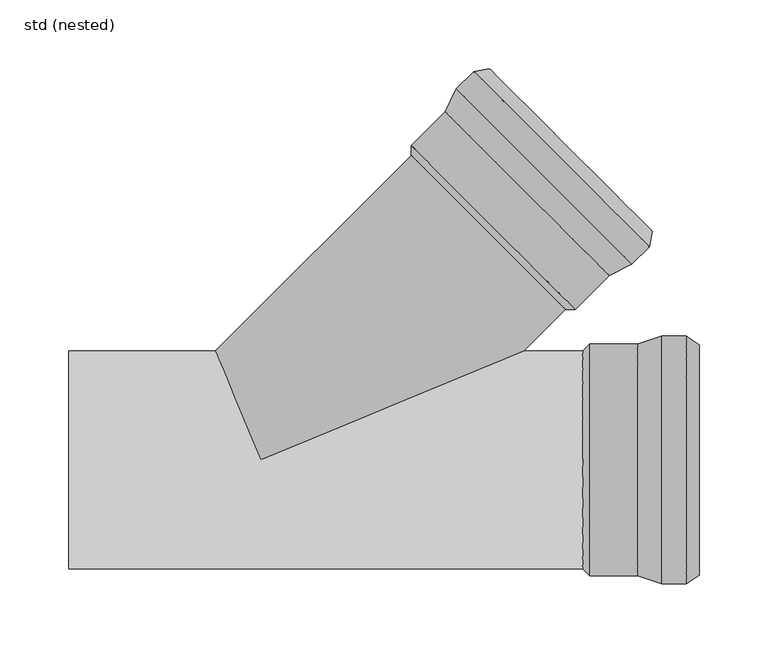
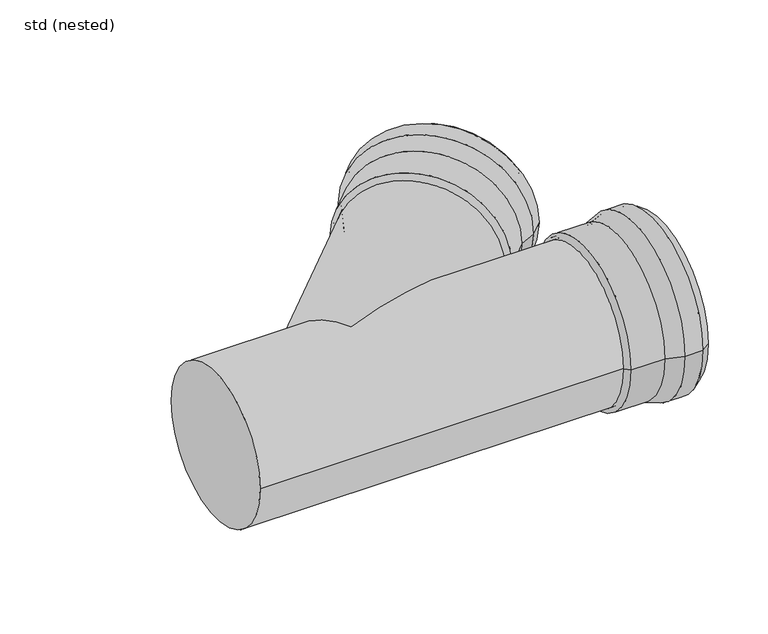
"""IFC4 building model written with IfcOpenShell, lengths in millimetres: pipe fitting geometry, ZZZ_do not use_PIF_ST_UN_GM-X single branch_ACO : std (nested)."""

import ifcopenshell
import ifcopenshell.guid

model = None  # the IFC model being written
_history = None  # IfcOwnerHistory: only IFC2X3 demands one
_inside = {}  # id of a spatial element -> (the spatial element, [elements in it])
_under = {}  # id of a project, library or spatial element -> (it, [spatial elements below it])
_declared = {}  # id of a project -> (the project, [libraries it declares])
_typed = {}  # id of a type object -> (the type object, [elements of that type])
_made_of = {}  # id of a material, layer set ... -> (it, [elements and type objects made of it])


def new_model(schema):
    """Start an empty IFC model of exactly this schema.

    Asked for "IFC4X3", IfcOpenShell would pick the latest addendum, in which some entities
    have other attributes; the version numbers below select the first issue.
    IFC2X3 requires an IfcOwnerHistory on every rooted entity: one is made here for all.
    """
    global model, _history
    if schema == "IFC4X3":
        model = ifcopenshell.file(schema_version=(4, 3, 0, 0))
    else:
        model = ifcopenshell.file(schema=schema)
    _inside.clear()
    _under.clear()
    _declared.clear()
    _typed.clear()
    _made_of.clear()
    _history = None
    if model.schema == "IFC2X3":
        org = make("IfcOrganization", Name="unknown")
        user = make(
            "IfcPersonAndOrganization",
            ThePerson=make("IfcPerson", FamilyName="unknown"),
            TheOrganization=org,
        )
        app = make(
            "IfcApplication",
            ApplicationDeveloper=org,
            Version="unknown",
            ApplicationFullName="unknown",
            ApplicationIdentifier="unknown",
        )
        _history = make(
            "IfcOwnerHistory",
            OwningUser=user,
            OwningApplication=app,
            ChangeAction="ADDED",
            CreationDate=0,
        )
    return model


def make(cls, **values):
    """One entity of the class cls with the attributes given. An attribute that is None is left unset."""
    return model.create_entity(
        cls, **{name: value for name, value in values.items() if value is not None}
    )


def rooted(cls, **values):
    """An entity with a GlobalId (a new one), such as an element, a storey or a relation."""
    return make(cls, GlobalId=ifcopenshell.guid.new(), OwnerHistory=_history, **values)


def si_unit(unit_type, name, prefix=None):
    """IfcSIUnit, for example si_unit("LENGTHUNIT", "METRE", prefix="MILLI")."""
    return make("IfcSIUnit", UnitType=unit_type, Prefix=prefix, Name=name)


def assignment(units):
    """IfcUnitAssignment: the units of a project."""
    return None if units is None else make("IfcUnitAssignment", Units=units)


def point(xyz):
    """IfcCartesianPoint."""
    return None if xyz is None else make("IfcCartesianPoint", Coordinates=xyz)


def direction(xyz):
    """IfcDirection."""
    return None if xyz is None else make("IfcDirection", DirectionRatios=xyz)


def frame(location, z_axis=None, x_axis=None):
    """IfcAxis2Placement3D, a coordinate frame: its origin and axes. An axis left out is left unset."""
    return make(
        "IfcAxis2Placement3D",
        Location=point(location),
        Axis=direction(z_axis),
        RefDirection=direction(x_axis),
    )


def origin():
    """The frame at (0, 0, 0) with its axes left unset."""
    return frame((0.0, 0.0, 0.0))


def place(relative_to, where):
    """IfcLocalPlacement: puts the frame where relative to a parent placement (None: the world)."""
    return make(
        "IfcLocalPlacement", PlacementRelTo=relative_to, RelativePlacement=where
    )


def context(
    kind, dimensions, precision=None, world=None, true_north=None, identifier=None
):
    """IfcGeometricRepresentationContext, for example the 3D "Model" context."""
    return make(
        "IfcGeometricRepresentationContext",
        ContextIdentifier=identifier,
        ContextType=kind,
        CoordinateSpaceDimension=dimensions,
        Precision=precision,
        WorldCoordinateSystem=world,
        TrueNorth=true_north,
    )


def project(units=None, contexts=None):
    """IfcProject with its units and contexts."""
    return rooted(
        "IfcProject",
        Name="project",
        RepresentationContexts=contexts,
        UnitsInContext=assignment(units),
    )


def spatial(cls, under=None, at=None, **own):
    """A site, building, storey or space (cls), placed at a placement, below another one or the project."""
    s = rooted(cls, ObjectPlacement=at, **own)
    if under is not None:
        _under.setdefault(under.id(), (under, []))[1].append(s)
    return s


def polyline(points):
    """IfcPolyline through the points."""
    return make("IfcPolyline", Points=[point(p) for p in points])


def circle_curve(where, radius):
    """IfcCircle in the frame where."""
    return make("IfcCircle", Position=where, Radius=radius)


def ellipse_curve(where, semi_axis1, semi_axis2):
    """IfcEllipse in the frame where."""
    return make(
        "IfcEllipse", Position=where, SemiAxis1=semi_axis1, SemiAxis2=semi_axis2
    )


def shape(context_of_items, identifier, shape_type, items):
    """IfcShapeRepresentation: the items that make up one representation, for example the "Body"."""
    return make(
        "IfcShapeRepresentation",
        ContextOfItems=context_of_items,
        RepresentationIdentifier=identifier,
        RepresentationType=shape_type,
        Items=items,
    )


def source(mapping_origin, context_of_items, identifier, shape_type, items):
    """IfcRepresentationMap: a shape defined once, which mapped items show again and again."""
    return make(
        "IfcRepresentationMap",
        MappingOrigin=mapping_origin,
        MappedRepresentation=shape(context_of_items, identifier, shape_type, items),
    )


def transform(
    local_origin,
    x_axis=None,
    y_axis=None,
    z_axis=None,
    scale=None,
    scale2=None,
    scale3=None,
    uniform=True,
):
    """IfcCartesianTransformationOperator3D, or its non-uniform kind. x_axis, y_axis, z_axis: its Axis1, 2, 3."""
    if uniform:
        return make(
            "IfcCartesianTransformationOperator3D",
            Axis1=direction(x_axis),
            Axis2=direction(y_axis),
            LocalOrigin=point(local_origin),
            Scale=scale,
            Axis3=direction(z_axis),
        )
    return make(
        "IfcCartesianTransformationOperator3DnonUniform",
        Axis1=direction(x_axis),
        Axis2=direction(y_axis),
        LocalOrigin=point(local_origin),
        Scale=scale,
        Axis3=direction(z_axis),
        Scale2=scale2,
        Scale3=scale3,
    )


def mapped(mapping_source, mapping_target):
    """IfcMappedItem: shows the shape of a source again, moved by a transform."""
    return make(
        "IfcMappedItem", MappingSource=mapping_source, MappingTarget=mapping_target
    )


def made_of(thing, what):
    """Note that an element or type object is made of a material, layer set ...; save() writes the relation."""
    if what is not None:
        _made_of.setdefault(what.id(), (what, []))[1].append(thing)
    return thing


def element(
    cls,
    number,
    at=None,
    inside=None,
    cuts=None,
    type_object=None,
    material=None,
    context=None,
    identifier="Body",
    shape_type=None,
    held_by="IfcProductDefinitionShape",
    body=None,
    shapes=None,
    **own,
):
    """One element of the class cls, such as IfcWall. Its Tag is "e" and its number.

    at: its placement. inside: the storey or other place that contains it. cuts: it is an
    opening in that element (IfcRelVoidsElement). A single representation is given by context,
    identifier, shape_type and body (its items); several are given by shapes. held_by: the class
    of the entity that holds the representations. save() writes the other relations.
    """
    e = rooted(cls, Tag="e%d" % number, ObjectPlacement=at, **own)
    if body is not None:
        shapes = [shape(context, identifier, shape_type, body)]
    if shapes is not None:
        e.Representation = make(held_by, Representations=shapes)
    if inside is not None:
        _inside.setdefault(inside.id(), (inside, []))[1].append(e)
    if cuts is not None:
        rooted(
            "IfcRelVoidsElement", RelatingBuildingElement=cuts, RelatedOpeningElement=e
        )
    if type_object is not None:
        _typed.setdefault(type_object.id(), (type_object, []))[1].append(e)
    return made_of(e, material)


def aggregate(whole, parts):
    """IfcRelAggregates: a whole, such as a stair, and the parts it consists of."""
    return rooted("IfcRelAggregates", RelatingObject=whole, RelatedObjects=parts)


def save(model, path):
    """Write the relations noted so far, then the file.

    IfcRelAggregates (storeys below a building ...), IfcRelContainedInSpatialStructure (elements
    in a storey), IfcRelDefinesByType, IfcRelAssociatesMaterial and IfcRelDeclares: one each for
    every whole, place, type object, material and project.
    """
    for whole, parts in _under.values():
        aggregate(whole, parts)
    for where, things in _inside.values():
        rooted(
            "IfcRelContainedInSpatialStructure",
            RelatedElements=things,
            RelatingStructure=where,
        )
    for kind, things in _typed.values():
        rooted("IfcRelDefinesByType", RelatedObjects=things, RelatingType=kind)
    for what, things in _made_of.values():
        rooted("IfcRelAssociatesMaterial", RelatedObjects=things, RelatingMaterial=what)
    for by, libraries in _declared.values():
        rooted("IfcRelDeclares", RelatingContext=by, RelatedDefinitions=libraries)
    model.write(path)


def plane_surface(at):
    """IfcPlane: the flat surface through the origin of the frame at, square to its z axis."""
    return make("IfcPlane", Position=at)


def cylinder_surface(at, radius):
    """IfcCylindricalSurface: all points at the distance radius from the z axis of the frame at."""
    return make("IfcCylindricalSurface", Position=at, Radius=radius)


def revolved_surface(curve, axis_point, axis_direction):
    """IfcSurfaceOfRevolution: the curve turned about the line through axis_point along axis_direction."""
    return make(
        "IfcSurfaceOfRevolution",
        SweptCurve=make("IfcArbitraryOpenProfileDef", ProfileType="CURVE", Curve=curve),
        AxisPosition=make("IfcAxis1Placement", Location=point(axis_point), Axis=direction(axis_direction)),
    )


def advanced_brep(points, edges, surfaces, faces):
    """IfcAdvancedBrep: a solid bounded by faces that lie on surfaces and meet in shared edges.

    An edge is (start, end): straight between two places in points (the first is 0);
    or (start, end, curve); or (start, end, curve, False) where it runs against its curve.
    A face is (place in surfaces, loops), or (place, loops, False) where it looks against
    its surface's normal. A loop lists edges by number (the first is 1), with a minus sign
    where the edge is run from its end to its start. The first loop is the outer one.
    """
    corners = [point(p) for p in points]
    vertices = [make("IfcVertexPoint", VertexGeometry=c) for c in corners]
    made = []
    for start, end, *more in edges:
        made.append(
            make(
                "IfcEdgeCurve",
                EdgeStart=vertices[start],
                EdgeEnd=vertices[end],
                EdgeGeometry=more[0] if more else make("IfcPolyline", Points=[corners[start], corners[end]]),
                SameSense=more[1] if len(more) > 1 else True,
            )
        )
    hull = []
    for where, loops, *sense in faces:
        bounds = []
        for j, loop in enumerate(loops):
            ring = [make("IfcOrientedEdge", EdgeElement=made[abs(k) - 1], Orientation=k > 0) for k in loop]
            bounds.append(
                make(
                    "IfcFaceOuterBound" if j == 0 else "IfcFaceBound",
                    Bound=make("IfcEdgeLoop", EdgeList=ring),
                    Orientation=True,
                )
            )
        hull.append(make("IfcAdvancedFace", Bounds=bounds, FaceSurface=surfaces[where], SameSense=sense[0] if sense else True))
    return make("IfcAdvancedBrep", Outer=make("IfcClosedShell", CfsFaces=hull))


def std_nested_64a60f05(model_context):
    return source(origin(), model_context, "Body", "AdvancedBrep", [
        advanced_brep(
        [(292.5, -90.5, 0.0), (292.5, 90.5, 0.0), (310.5, 90.5, 0.0), (310.5, -90.5, 0.0), (275.0, -84.5, 0.0), (275.0, 84.5, 0.0), (320.0, 84.0, 0.0), (320.0, -84.0, 0.0), (240.0, -84.5, 0.0), (240.0, 84.5, 0.0), (235.0, -79.5, 0.0), (235.0, 79.5, 0.0), (240.0, -79.5, 0.0), (240.0, 79.5, 0.0), (275.4166667, -82.0, 0.0), (275.4166667, 82.0, 0.0), (240.0, 82.0, 0.0), (240.0, -82.0, 0.0), (292.9166667, -88.0, 0.0), (292.9166667, 88.0, 0.0), (309.7265906, -88.0, 0.0), (309.7265906, 88.0, 0.0), (318.5882902, -81.9367318, 0.0), (318.5882902, 81.9367318, 0.0)],
        [
            (0, 1, circle_curve(frame((292.5, 0.0, 0.0), z_axis=(1.0, 0.0, 0.0), x_axis=(0.0, 1.0, 0.0)), 90.5)),
            (1, 2),
            (2, 3, circle_curve(frame((310.5, 0.0, 0.0), z_axis=(-1.0, 0.0, 0.0), x_axis=(0.0, 1.0, 0.0)), 90.5)),
            (3, 0),
            (1, 0, circle_curve(frame((292.5, 0.0, 0.0), z_axis=(1.0, 0.0, 0.0), x_axis=(0.0, 1.0, 0.0)), 90.5)),
            (3, 2, circle_curve(frame((310.5, 0.0, 0.0), z_axis=(-1.0, 0.0, 0.0), x_axis=(0.0, 1.0, 0.0)), 90.5)),
            (4, 5, circle_curve(frame((275.0, 0.0, 0.0), z_axis=(1.0, 0.0, 0.0), x_axis=(0.0, 1.0, 0.0)), 84.5)),
            (5, 1),
            (0, 4),
            (5, 4, circle_curve(frame((275.0, 0.0, 0.0), z_axis=(1.0, 0.0, 0.0), x_axis=(0.0, 1.0, 0.0)), 84.5)),
            (2, 6),
            (6, 7, circle_curve(frame((320.0, 0.0, 0.0), z_axis=(-1.0, 0.0, 0.0), x_axis=(0.0, 1.0, 0.0)), 84.0)),
            (7, 3),
            (7, 6, circle_curve(frame((320.0, 0.0, 0.0), z_axis=(-1.0, 0.0, 0.0), x_axis=(0.0, 1.0, 0.0)), 84.0)),
            (8, 9, circle_curve(frame((240.0, 0.0, 0.0), z_axis=(1.0, 0.0, 0.0), x_axis=(0.0, 1.0, 0.0)), 84.5)),
            (9, 5),
            (4, 8),
            (9, 8, circle_curve(frame((240.0, 0.0, 0.0), z_axis=(1.0, 0.0, 0.0), x_axis=(0.0, 1.0, 0.0)), 84.5)),
            (10, 11, circle_curve(frame((235.0, 0.0, 0.0), z_axis=(1.0, 0.0, 0.0), x_axis=(0.0, 1.0, 0.0)), 79.5)),
            (11, 9),
            (8, 10),
            (11, 10, circle_curve(frame((235.0, 0.0, 0.0), z_axis=(1.0, 0.0, 0.0), x_axis=(0.0, 1.0, 0.0)), 79.5)),
            (12, 13, circle_curve(frame((240.0, 0.0, 0.0), z_axis=(1.0, 0.0, 0.0), x_axis=(0.0, 1.0, 0.0)), 79.5)),
            (13, 11),
            (10, 12),
            (13, 12, circle_curve(frame((240.0, 0.0, 0.0), z_axis=(1.0, 0.0, 0.0), x_axis=(0.0, 1.0, 0.0)), 79.5)),
            (14, 15, circle_curve(frame((275.4166667, 0.0, 0.0), z_axis=(1.0, 0.0, 0.0), x_axis=(0.0, 1.0, 0.0)), 82.0)),
            (15, 16),
            (16, 17, circle_curve(frame((240.0, 0.0, 0.0), z_axis=(-1.0, 0.0, 0.0), x_axis=(0.0, 1.0, 0.0)), 82.0)),
            (17, 14),
            (15, 14, circle_curve(frame((275.4166667, 0.0, 0.0), z_axis=(1.0, 0.0, 0.0), x_axis=(0.0, 1.0, 0.0)), 82.0)),
            (17, 16, circle_curve(frame((240.0, 0.0, 0.0), z_axis=(-1.0, 0.0, 0.0), x_axis=(0.0, 1.0, 0.0)), 82.0)),
            (18, 19, circle_curve(frame((292.9166667, 0.0, 0.0), z_axis=(1.0, 0.0, 0.0), x_axis=(0.0, 1.0, 0.0)), 88.0)),
            (19, 15),
            (14, 18),
            (19, 18, circle_curve(frame((292.9166667, 0.0, 0.0), z_axis=(1.0, 0.0, 0.0), x_axis=(0.0, 1.0, 0.0)), 88.0)),
            (20, 21, circle_curve(frame((309.7265906, 0.0, 0.0), z_axis=(1.0, 0.0, 0.0), x_axis=(0.0, 1.0, 0.0)), 88.0)),
            (21, 19),
            (18, 20),
            (21, 20, circle_curve(frame((309.7265906, 0.0, 0.0), z_axis=(1.0, 0.0, 0.0), x_axis=(0.0, 1.0, 0.0)), 88.0)),
            (22, 23, circle_curve(frame((318.5882902, 0.0, 0.0), z_axis=(1.0, 0.0, 0.0), x_axis=(0.0, 1.0, 0.0)), 81.9367318)),
            (23, 21),
            (20, 22),
            (23, 22, circle_curve(frame((318.5882902, 0.0, 0.0), z_axis=(1.0, 0.0, 0.0), x_axis=(0.0, 1.0, 0.0)), 81.9367318)),
            (6, 23),
            (22, 7),
            (16, 13),
            (12, 17),
        ],
        [
            cylinder_surface(frame((316.6444117, 0.0, 0.0), z_axis=(-1.0, 0.0, 0.0), x_axis=(0.0, 1.0, 0.0)), 90.5),
            revolved_surface(polyline([(292.5, 90.5, 0.0), (275.0, 84.5, 0.0)]), (316.6444117, 0.0, 0.0), (-1.0, 0.0, 0.0)),
            revolved_surface(polyline([(320.0, 84.0, 0.0), (310.5, 90.5, 0.0)]), (316.6444117, 0.0, 0.0), (-1.0, 0.0, 0.0)),
            cylinder_surface(frame((316.6444117, 0.0, 0.0), z_axis=(-1.0, 0.0, 0.0), x_axis=(0.0, 1.0, 0.0)), 84.5),
            revolved_surface(polyline([(240.0, 84.5, 0.0), (235.0, 79.5, 0.0)]), (316.6444117, 0.0, 0.0), (-1.0, 0.0, 0.0)),
            revolved_surface(polyline([(235.0, 79.5, 0.0), (240.0, 79.5, 0.0)]), (316.6444117, 0.0, 0.0), (-1.0, 0.0, 0.0)),
            revolved_surface(polyline([(240.0, 82.0, 0.0), (275.4166667, 82.0, 0.0)]), (316.6444117, 0.0, 0.0), (-1.0, 0.0, 0.0)),
            revolved_surface(polyline([(275.4166667, 82.0, 0.0), (292.9166667, 88.0, 0.0)]), (316.6444117, 0.0, 0.0), (-1.0, 0.0, 0.0)),
            revolved_surface(polyline([(292.9166667, 88.0, 0.0), (309.7265906, 88.0, 0.0)]), (316.6444117, 0.0, 0.0), (-1.0, 0.0, 0.0)),
            revolved_surface(polyline([(309.7265906, 88.0, 0.0), (318.5882902, 81.9367318, 0.0)]), (316.6444117, 0.0, 0.0), (-1.0, 0.0, 0.0)),
            revolved_surface(polyline([(318.5882902, 81.9367318, 0.0), (320.0, 84.0, 0.0)]), (316.6444117, 0.0, 0.0), (-1.0, 0.0, 0.0)),
            plane_surface(frame((240.0, 0.0, 0.0), z_axis=(1.0, 0.0, 0.0), x_axis=(0.0, 1.0, 0.0))),
        ],
        [
            (0, [[1, 2, 3, 4]]),
            (0, [[5, -4, 6, -2]]),
            (1, [[7, 8, -1, 9]]),
            (1, [[10, -9, -5, -8]]),
            (2, [[-3, 11, 12, 13]]),
            (2, [[-6, -13, 14, -11]]),
            (3, [[15, 16, -7, 17]]),
            (3, [[18, -17, -10, -16]]),
            (4, [[19, 20, -15, 21]]),
            (4, [[22, -21, -18, -20]]),
            (5, [[23, 24, -19, 25]]),
            (5, [[26, -25, -22, -24]]),
            (6, [[27, 28, 29, 30]]),
            (6, [[31, -30, 32, -28]]),
            (7, [[33, 34, -27, 35]]),
            (7, [[36, -35, -31, -34]]),
            (8, [[37, 38, -33, 39]]),
            (8, [[40, -39, -36, -38]]),
            (9, [[41, 42, -37, 43]]),
            (9, [[44, -43, -40, -42]]),
            (10, [[-12, 45, -41, 46]]),
            (10, [[-14, -46, -44, -45]]),
            (11, [[-29, 47, -23, 48]]),
            (11, [[-32, -48, -26, -47]]),
        ],
    ),
        advanced_brep(
        [(270.8218972, 142.8355698, 0.0), (142.8355698, 270.8218972, 0.0), (155.5634919, 283.5498193, 0.0), (283.5498193, 155.5634919, 0.0), (254.2048878, 134.7038418, 0.0), (134.7038418, 254.2048878, 0.0), (166.8772004, 285.6711396, 0.0), (285.6711396, 166.8772004, 0.0), (229.4561505, 109.9551045, 0.0), (109.9551045, 229.4561505, 0.0), (222.3850827, 109.9551045, 0.0), (109.9551045, 222.3850827, 0.0), (225.9206166, 113.4906384, 0.0), (113.4906384, 225.9206166, 0.0), (252.7317487, 136.7662366, 0.0), (136.7662366, 252.7317487, 0.0), (111.7228714, 227.6883835, 0.0), (227.6883835, 111.7228714, 0.0), (269.3487581, 144.8979646, 0.0), (144.8979646, 269.3487581, 0.0), (281.2351693, 156.7843758, 0.0), (156.7843758, 281.2351693, 0.0), (283.2139591, 167.3379217, 0.0), (167.3379217, 283.2139591, 0.0)],
        [
            (0, 1, circle_curve(frame((206.8287335, 206.8287335, 0.0), z_axis=(0.7071067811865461, 0.7071067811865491, 0.0), x_axis=(-0.7071067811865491, 0.7071067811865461, 0.0)), 90.5)),
            (1, 2),
            (2, 3, circle_curve(frame((219.5566556, 219.5566556, 0.0), z_axis=(-0.7071067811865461, -0.7071067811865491, 0.0), x_axis=(-0.7071067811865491, 0.7071067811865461, 0.0)), 90.5)),
            (3, 0),
            (1, 0, circle_curve(frame((206.8287335, 206.8287335, 0.0), z_axis=(0.7071067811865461, 0.7071067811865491, 0.0), x_axis=(-0.7071067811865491, 0.7071067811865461, 0.0)), 90.5)),
            (3, 2, circle_curve(frame((219.5566556, 219.5566556, 0.0), z_axis=(-0.7071067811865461, -0.7071067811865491, 0.0), x_axis=(-0.7071067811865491, 0.7071067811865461, 0.0)), 90.5)),
            (4, 5, circle_curve(frame((194.4543648, 194.4543648, 0.0), z_axis=(0.7071067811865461, 0.7071067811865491, 0.0), x_axis=(-0.7071067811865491, 0.7071067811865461, 0.0)), 84.5)),
            (5, 1),
            (0, 4),
            (5, 4, circle_curve(frame((194.4543648, 194.4543648, 0.0), z_axis=(0.7071067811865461, 0.7071067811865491, 0.0), x_axis=(-0.7071067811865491, 0.7071067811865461, 0.0)), 84.5)),
            (2, 6),
            (6, 7, circle_curve(frame((226.27417, 226.27417, 0.0), z_axis=(-0.7071067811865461, -0.7071067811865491, 0.0), x_axis=(-0.7071067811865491, 0.7071067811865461, 0.0)), 84.0)),
            (7, 3),
            (7, 6, circle_curve(frame((226.27417, 226.27417, 0.0), z_axis=(-0.7071067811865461, -0.7071067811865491, 0.0), x_axis=(-0.7071067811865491, 0.7071067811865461, 0.0)), 84.0)),
            (8, 9, circle_curve(frame((169.7056275, 169.7056275, 0.0), z_axis=(0.7071067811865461, 0.7071067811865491, 0.0), x_axis=(-0.7071067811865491, 0.7071067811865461, 0.0)), 84.5)),
            (9, 5),
            (4, 8),
            (9, 8, circle_curve(frame((169.7056275, 169.7056275, 0.0), z_axis=(0.7071067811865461, 0.7071067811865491, 0.0), x_axis=(-0.7071067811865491, 0.7071067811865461, 0.0)), 84.5)),
            (10, 11, circle_curve(frame((166.1700936, 166.1700936, 0.0), z_axis=(0.7071067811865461, 0.7071067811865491, 0.0), x_axis=(-0.7071067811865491, 0.7071067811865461, 0.0)), 79.5)),
            (11, 9),
            (8, 10),
            (11, 10, circle_curve(frame((166.1700936, 166.1700936, 0.0), z_axis=(0.7071067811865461, 0.7071067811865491, 0.0), x_axis=(-0.7071067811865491, 0.7071067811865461, 0.0)), 79.5)),
            (12, 13, circle_curve(frame((169.7056275, 169.7056275, 0.0), z_axis=(0.7071067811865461, 0.7071067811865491, 0.0), x_axis=(-0.7071067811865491, 0.7071067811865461, 0.0)), 79.5)),
            (13, 11),
            (10, 12),
            (13, 12, circle_curve(frame((169.7056275, 169.7056275, 0.0), z_axis=(0.7071067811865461, 0.7071067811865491, 0.0), x_axis=(-0.7071067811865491, 0.7071067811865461, 0.0)), 79.5)),
            (14, 15, circle_curve(frame((194.7489927, 194.7489927, 0.0), z_axis=(0.7071067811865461, 0.7071067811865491, 0.0), x_axis=(-0.7071067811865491, 0.7071067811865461, 0.0)), 82.0)),
            (15, 16),
            (16, 17, circle_curve(frame((169.7056275, 169.7056275, 0.0), z_axis=(-0.7071067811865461, -0.7071067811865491, 0.0), x_axis=(-0.7071067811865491, 0.7071067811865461, 0.0)), 82.0)),
            (17, 14),
            (15, 14, circle_curve(frame((194.7489927, 194.7489927, 0.0), z_axis=(0.7071067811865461, 0.7071067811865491, 0.0), x_axis=(-0.7071067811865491, 0.7071067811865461, 0.0)), 82.0)),
            (17, 16, circle_curve(frame((169.7056275, 169.7056275, 0.0), z_axis=(-0.7071067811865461, -0.7071067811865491, 0.0), x_axis=(-0.7071067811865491, 0.7071067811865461, 0.0)), 82.0)),
            (18, 19, circle_curve(frame((207.1233613, 207.1233613, 0.0), z_axis=(0.7071067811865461, 0.7071067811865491, 0.0), x_axis=(-0.7071067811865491, 0.7071067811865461, 0.0)), 88.0)),
            (19, 15),
            (14, 18),
            (19, 18, circle_curve(frame((207.1233613, 207.1233613, 0.0), z_axis=(0.7071067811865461, 0.7071067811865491, 0.0), x_axis=(-0.7071067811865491, 0.7071067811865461, 0.0)), 88.0)),
            (20, 21, circle_curve(frame((219.0097725, 219.0097725, 0.0), z_axis=(0.7071067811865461, 0.7071067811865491, 0.0), x_axis=(-0.7071067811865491, 0.7071067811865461, 0.0)), 88.0)),
            (21, 19),
            (18, 20),
            (21, 20, circle_curve(frame((219.0097725, 219.0097725, 0.0), z_axis=(0.7071067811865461, 0.7071067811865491, 0.0), x_axis=(-0.7071067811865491, 0.7071067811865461, 0.0)), 88.0)),
            (22, 23, circle_curve(frame((225.2759404, 225.2759404, 0.0), z_axis=(0.7071067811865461, 0.7071067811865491, 0.0), x_axis=(-0.7071067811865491, 0.7071067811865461, 0.0)), 81.9367318)),
            (23, 21),
            (20, 22),
            (23, 22, circle_curve(frame((225.2759404, 225.2759404, 0.0), z_axis=(0.7071067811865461, 0.7071067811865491, 0.0), x_axis=(-0.7071067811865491, 0.7071067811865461, 0.0)), 81.9367318)),
            (6, 23),
            (22, 7),
            (16, 13),
            (12, 17),
        ],
        [
            cylinder_surface(frame((223.9014107, 223.9014107, 0.0), z_axis=(-0.7071067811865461, -0.7071067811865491, 0.0), x_axis=(-0.7071067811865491, 0.7071067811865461, 0.0)), 90.5),
            revolved_surface(polyline([(142.8355698, 270.8218972, 0.0), (134.7038418, 254.2048878, 0.0)]), (223.9014107, 223.9014107, 0.0), (-0.7071067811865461, -0.7071067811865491, 0.0)),
            revolved_surface(polyline([(166.8772004, 285.6711396, 0.0), (155.5634919, 283.5498193, 0.0)]), (223.9014107, 223.9014107, 0.0), (-0.7071067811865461, -0.7071067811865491, 0.0)),
            cylinder_surface(frame((223.9014107, 223.9014107, 0.0), z_axis=(-0.7071067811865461, -0.7071067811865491, 0.0), x_axis=(-0.7071067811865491, 0.7071067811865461, 0.0)), 84.5),
            revolved_surface(polyline([(109.9551045, 229.4561505, 0.0), (109.9551045, 222.3850827, 0.0)]), (223.9014107, 223.9014107, 0.0), (-0.7071067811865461, -0.7071067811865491, 0.0)),
            revolved_surface(polyline([(109.9551044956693, 222.3850827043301, 0.0), (113.49063839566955, 225.92061660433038, 0.0)]), (223.9014107, 223.9014107, 0.0), (-0.7071067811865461, -0.7071067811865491, 0.0)),
            revolved_surface(polyline([(111.72287139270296, 227.68838350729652, 0.0), (136.76623664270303, 252.7317487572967, 0.0)]), (223.9014107, 223.9014107, 0.0), (-0.7071067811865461, -0.7071067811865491, 0.0)),
            revolved_surface(polyline([(136.7662366, 252.7317487, 0.0), (144.8979646, 269.3487581, 0.0)]), (223.9014107, 223.9014107, 0.0), (-0.7071067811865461, -0.7071067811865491, 0.0)),
            revolved_surface(polyline([(144.8979645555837, 269.348758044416, 0.0), (156.78437580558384, 281.23516929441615, 0.0)]), (223.9014107, 223.9014107, 0.0), (-0.7071067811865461, -0.7071067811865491, 0.0)),
            revolved_surface(polyline([(156.7843758, 281.2351693, 0.0), (167.3379217, 283.2139591, 0.0)]), (223.9014107, 223.9014107, 0.0), (-0.7071067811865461, -0.7071067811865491, 0.0)),
            revolved_surface(polyline([(167.3379217, 283.2139591, 0.0), (166.8772004, 285.6711396, 0.0)]), (223.9014107, 223.9014107, 0.0), (-0.7071067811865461, -0.7071067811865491, 0.0)),
            plane_surface(frame((169.7056275, 169.7056275, 0.0), z_axis=(0.7071067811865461, 0.7071067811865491, 0.0), x_axis=(-0.7071067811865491, 0.7071067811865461, 0.0))),
        ],
        [
            (0, [[1, 2, 3, 4]]),
            (0, [[5, -4, 6, -2]]),
            (1, [[7, 8, -1, 9]]),
            (1, [[10, -9, -5, -8]]),
            (2, [[-3, 11, 12, 13]]),
            (2, [[-6, -13, 14, -11]]),
            (3, [[15, 16, -7, 17]]),
            (3, [[18, -17, -10, -16]]),
            (4, [[19, 20, -15, 21]]),
            (4, [[22, -21, -18, -20]]),
            (5, [[23, 24, -19, 25]]),
            (5, [[26, -25, -22, -24]]),
            (6, [[27, 28, 29, 30]]),
            (6, [[31, -30, 32, -28]]),
            (7, [[33, 34, -27, 35]]),
            (7, [[36, -35, -31, -34]]),
            (8, [[37, 38, -33, 39]]),
            (8, [[40, -39, -36, -38]]),
            (9, [[41, 42, -37, 43]]),
            (9, [[44, -43, -40, -42]]),
            (10, [[-12, 45, -41, 46]]),
            (10, [[-14, -46, -44, -45]]),
            (11, [[-29, 47, -23, 48]]),
            (11, [[-32, -48, -26, -47]]),
        ],
    ),
        advanced_brep(
        [(240.0, -79.5, 0.0), (240.0, 79.5, 0.0), (-140.0, -79.5, 0.0), (-140.0, 79.5, 0.0), (-32.9299782, 79.5, 0.0), (0.0, 0.0, -79.5), (191.9299782, 79.5, 0.0), (0.0, 0.0, 79.5), (225.9206166, 113.4906384, 0.0), (113.4906384, 225.9206166, 0.0)],
        [
            (0, 1, circle_curve(frame((240.0, 0.0, 0.0), z_axis=(1.0, 0.0, 0.0), x_axis=(0.0, 1.0, 0.0)), 79.5)),
            (1, 0, circle_curve(frame((240.0, 0.0, 0.0), z_axis=(1.0, 0.0, 0.0), x_axis=(0.0, 1.0, 0.0)), 79.5)),
            (2, 3, circle_curve(frame((-140.0, 0.0, 0.0), z_axis=(-1.0, 0.0, 0.0), x_axis=(0.0, 1.0, 0.0)), 79.5)),
            (3, 2, circle_curve(frame((-140.0, 0.0, 0.0), z_axis=(-1.0, 0.0, 0.0), x_axis=(0.0, 1.0, 0.0)), 79.5)),
            (0, 2),
            (3, 4),
            (4, 5, ellipse_curve(frame((0.0, 0.0, 0.0), z_axis=(-0.9238795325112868, -0.38268343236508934, 0.0), x_axis=(0.38268343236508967, -0.9238795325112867, 0.0)), 86.0501799, 79.5)),
            (5, 6, ellipse_curve(frame((0.0, 0.0, 0.0), z_axis=(0.3826834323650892, -0.9238795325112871, 0.0), x_axis=(0.9238795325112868, 0.3826834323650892, 0.0)), 207.7435114, 79.5)),
            (6, 1),
            (6, 7, ellipse_curve(frame((0.0, 0.0, 0.0), z_axis=(0.3826834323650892, -0.9238795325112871, 0.0), x_axis=(0.9238795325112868, 0.3826834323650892, 0.0)), 207.7435114, 79.5)),
            (7, 4, ellipse_curve(frame((0.0, 0.0, 0.0), z_axis=(-0.9238795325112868, -0.38268343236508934, 0.0), x_axis=(0.38268343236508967, -0.9238795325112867, 0.0)), 86.0501799, 79.5)),
            (8, 9, circle_curve(frame((169.7056275, 169.7056275, 0.0), z_axis=(0.7071067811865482, 0.707106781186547, 0.0), x_axis=(-0.707106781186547, 0.7071067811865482, 0.0)), 79.5)),
            (9, 8, circle_curve(frame((169.7056275, 169.7056275, 0.0), z_axis=(0.7071067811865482, 0.707106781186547, 0.0), x_axis=(-0.707106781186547, 0.7071067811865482, 0.0)), 79.5)),
            (9, 4),
            (6, 8),
        ],
        [
            plane_surface(frame((240.0, 79.5, 0.0), z_axis=(1.0, 0.0, 0.0), x_axis=(0.0, 0.0, 1.0))),
            plane_surface(frame((-140.0, 79.5, 0.0), z_axis=(-1.0, 0.0, 0.0), x_axis=(0.0, 0.0, -1.0))),
            cylinder_surface(frame((-140.0, 0.0, 0.0), z_axis=(1.0, 0.0, 0.0), x_axis=(0.0, 1.0, 0.0)), 79.5),
            plane_surface(frame((169.7056275, 169.7056275, 0.0), z_axis=(0.7071067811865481, 0.7071067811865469, 0.0), x_axis=(0.0, 0.0, 1.0))),
            cylinder_surface(frame((0.0, 0.0, 0.0), z_axis=(-0.7071067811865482, -0.707106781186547, 0.0), x_axis=(-0.707106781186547, 0.7071067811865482, 0.0)), 79.5),
        ],
        [
            (0, [[1, 2]]),
            (1, [[3, 4]]),
            (2, [[-1, 5, -4, 6, 7, 8, 9]]),
            (2, [[-2, -9, 10, 11, -6, -3, -5]]),
            (3, [[12, 13]]),
            (4, [[-13, 14, -11, -10, 15]]),
            (4, [[-12, -15, -8, -7, -14]]),
        ],
    ),
    ])


if __name__ == "__main__":
    model = new_model("IFC4")
    model_context = context("Model", 3, world=origin())
    ifc_project = project(units=[si_unit("LENGTHUNIT", "METRE", prefix="MILLI")], contexts=[model_context])
    site = spatial("IfcSite", under=ifc_project)
    building = spatial("IfcBuilding", under=site)
    placement = place(None, origin())
    std_nested_shape = std_nested_64a60f05(model_context)
    element("IfcPipeFitting", 1, ObjectType="ZZZ_do not use_PIF_ST_UN_GM-X single branch_ACO : std (nested)", at=placement, inside=building, context=model_context, shape_type="MappedRepresentation", body=[
        mapped(std_nested_shape, transform((0.0, 0.0, 0.0), x_axis=(1.0, 0.0, 0.0), y_axis=(0.0, 1.0, 0.0), z_axis=(0.0, 0.0, 1.0))),
    ])
    save(model, "model.ifc")
